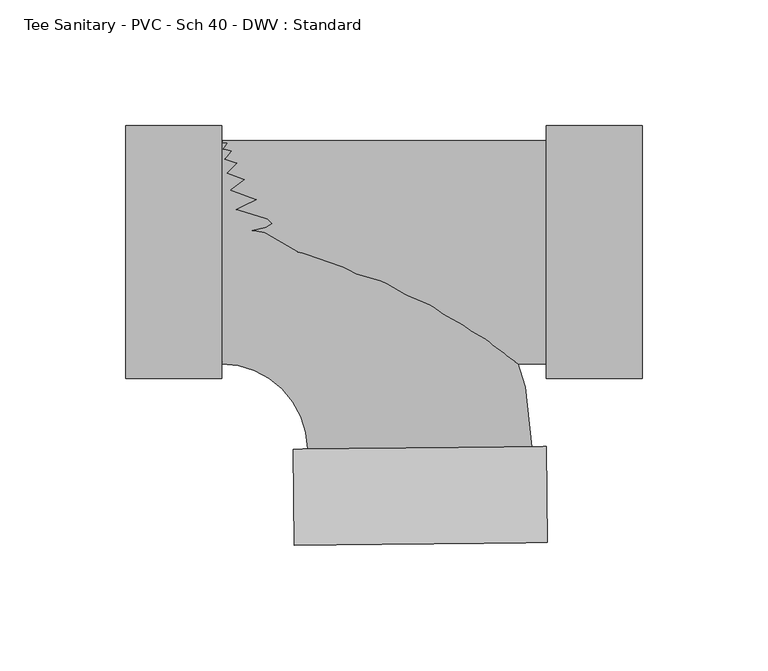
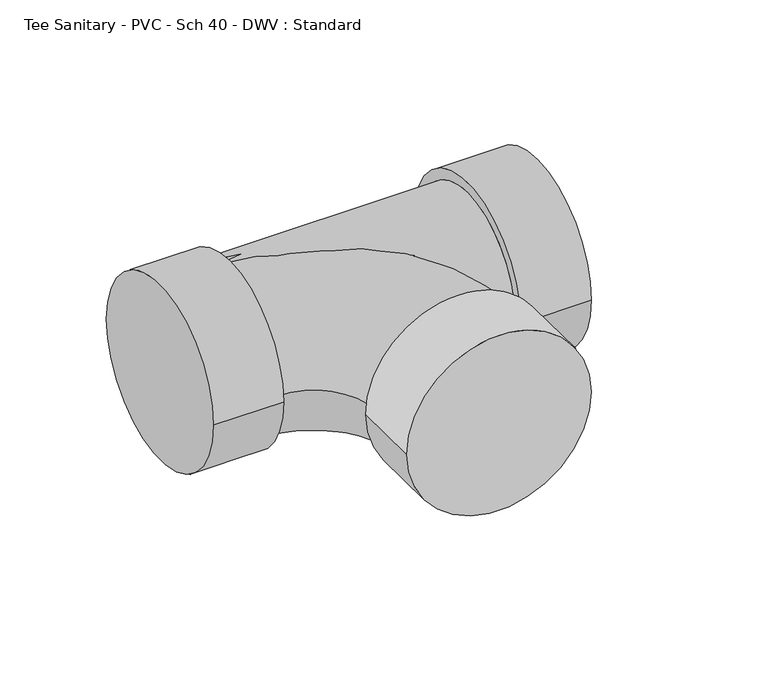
"""IFC4 building model written with IfcOpenShell, lengths in millimetres: pipe fitting geometry, Tee Sanitary - PVC - Sch 40 - DWV : Standard."""

from ifc_helpers import new_model, si_unit, point, frame, origin, place, context, project, spatial, circle_curve, ellipse_curve, trimmed, source, transform, mapped, element, save
from ifc_brep_helpers import plane_surface, cylinder_surface, revolved_surface, advanced_brep


def tee_sanitary_pvc_sch_40_dwv_standard_a3f514f4(model_context):
    return source(origin(), model_context, "Body", "AdvancedBrep", [
        advanced_brep(
        [(-77.8002, -44.45, 0.0), (-77.8002, 44.45, 0.0), (-43.6382819, -78.2583796, 0.0), (45.256908, -77.3336014, 0.0), (51.4695268, -115.371033, 0.0), (-49.0582337, -116.416825, 0.0), (51.0731933, -77.2730944, 0.0), (-49.4545672, -78.3188865, 0.0)],
        [
            (0, 1, circle_curve(frame((-77.8002, 0.0, 0.0), z_axis=(-1.0, 0.0, 0.0), x_axis=(0.0, 1.0, 0.0)), 44.45)),
            (1, 0, circle_curve(frame((-77.8002, 0.0, 0.0), z_axis=(-1.0, 0.0, 0.0), x_axis=(0.0, 1.0, 0.0)), 44.45)),
            (0, 2, circle_curve(frame((-77.8002, -78.6137666, 0.0), z_axis=(0.0, 0.0, -1.0), x_axis=(0.0, 1.0, 0.0)), 34.1637666)),
            (2, 3, circle_curve(frame((0.809313, -77.7959905, 0.0), z_axis=(-0.010402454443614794, 0.9999458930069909, 0.0), x_axis=(0.9999458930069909, 0.010402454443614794, 0.0)), 44.45)),
            (3, 1, circle_curve(frame((-77.8002, -78.6137666, 0.0), z_axis=(0.0, 0.0, 1.0), x_axis=(0.0, 1.0, 0.0)), 123.0637666)),
            (3, 2, circle_curve(frame((0.809313, -77.7959905, 0.0), z_axis=(-0.01040245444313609, 0.9999458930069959, 0.0), x_axis=(0.9999458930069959, 0.01040245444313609, 0.0)), 44.45)),
            (4, 5, circle_curve(frame((1.2056466, -115.893929, 0.0), z_axis=(0.010402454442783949, -0.9999458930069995, 0.0), x_axis=(-0.9999458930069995, -0.010402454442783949, 0.0)), 50.2666)),
            (5, 4, circle_curve(frame((1.2056466, -115.893929, 0.0), z_axis=(0.010402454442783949, -0.9999458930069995, 0.0), x_axis=(-0.9999458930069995, -0.010402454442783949, 0.0)), 50.2666)),
            (6, 7, circle_curve(frame((0.809313, -77.7959905, 0.0), z_axis=(-0.010402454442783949, 0.9999458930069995, 0.0), x_axis=(-0.9999458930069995, -0.010402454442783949, 0.0)), 50.2666)),
            (7, 6, circle_curve(frame((0.809313, -77.7959905, 0.0), z_axis=(-0.010402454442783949, 0.9999458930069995, 0.0), x_axis=(-0.9999458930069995, -0.010402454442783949, 0.0)), 50.2666)),
            (4, 6),
            (7, 5),
        ],
        [
            plane_surface(frame((-77.8002, 0.0, 0.0), z_axis=(-1.0, 0.0, 0.0), x_axis=(0.0, 0.0, 1.0))),
            revolved_surface(trimmed(ellipse_curve(frame((-77.8002, 0.0, 0.0), z_axis=(-1.0, 0.0, 0.0), x_axis=(0.0, 1.0, 0.0)), 44.45, 44.45), [point((-77.8002, -44.45, 0.0))], [point((-77.8002, 44.45, 0.0))], True, "CARTESIAN"), (-77.8002, -78.6137666, 0.0), (0.0, 0.0, -1.0)),
            revolved_surface(trimmed(ellipse_curve(frame((-77.8002, 0.0, 0.0), z_axis=(-1.0, 0.0, 0.0), x_axis=(0.0, 1.0, 0.0)), 44.45, 44.45), [point((-77.8002, 44.45, 0.0))], [point((-77.8002, -44.45, 0.0))], True, "CARTESIAN"), (-77.8002, -78.6137666, 0.0), (0.0, 0.0, -1.0)),
            plane_surface(frame((1.2056466, -115.893929, 0.0), z_axis=(0.010402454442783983, -0.9999458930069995, 0.0), x_axis=(0.0, 0.0, 1.0))),
            plane_surface(frame((0.809313, -77.7959905, 0.0), z_axis=(-0.010402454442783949, 0.9999458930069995, 0.0), x_axis=(0.0, 0.0, 1.0))),
            cylinder_surface(frame((1.2056466, -115.893929, 0.0), z_axis=(0.010402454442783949, -0.9999458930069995, 0.0), x_axis=(-0.9999458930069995, -0.010402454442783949, 0.0)), 50.2666),
        ],
        [
            (0, [[1, 2]]),
            (1, [[-1, 3, 4, 5]]),
            (2, [[-2, -5, 6, -3]]),
            (3, [[7, 8]]),
            (4, [[9, 10], [-4, -6]]),
            (5, [[-7, 11, -10, 12]]),
            (5, [[-8, -12, -9, -11]]),
        ],
    ),
        advanced_brep(
        [(-77.8002, -44.45, 0.0), (51.0731933, -44.45, 0.0), (51.0731933, 44.45, 0.0), (-77.8002, 44.45, 0.0), (51.0731933, -50.2666, 0.0), (51.0731933, 50.2666, 0.0), (89.1731933, -50.2666, 0.0), (89.1731933, 50.2666, 0.0), (-115.9002, -50.2666, 0.0), (-115.9002, 50.2666, 0.0), (-77.8002, -50.2666, 0.0), (-77.8002, 50.2666, 0.0)],
        [
            (0, 1),
            (1, 2, circle_curve(frame((51.0731933, 0.0, 0.0), z_axis=(-1.0, 0.0, 0.0), x_axis=(0.0, 1.0, 0.0)), 44.45)),
            (2, 3),
            (3, 0, circle_curve(frame((-77.8002, 0.0, 0.0), z_axis=(1.0, 0.0, 0.0), x_axis=(0.0, 1.0, 0.0)), 44.45)),
            (0, 3, circle_curve(frame((-77.8002, 0.0, 0.0), z_axis=(1.0, 0.0, 0.0), x_axis=(0.0, 1.0, 0.0)), 44.45)),
            (2, 1, circle_curve(frame((51.0731933, 0.0, 0.0), z_axis=(-1.0, 0.0, 0.0), x_axis=(0.0, 1.0, 0.0)), 44.45)),
            (4, 5, circle_curve(frame((51.0731933, 0.0, 0.0), z_axis=(-1.0, 0.0, 0.0), x_axis=(0.0, 1.0, 0.0)), 50.2666)),
            (5, 4, circle_curve(frame((51.0731933, 0.0, 0.0), z_axis=(-1.0, 0.0, 0.0), x_axis=(0.0, 1.0, 0.0)), 50.2666)),
            (6, 7, circle_curve(frame((89.1731933, 0.0, 0.0), z_axis=(1.0, 0.0, 0.0), x_axis=(0.0, 1.0, 0.0)), 50.2666)),
            (7, 6, circle_curve(frame((89.1731933, 0.0, 0.0), z_axis=(1.0, 0.0, 0.0), x_axis=(0.0, 1.0, 0.0)), 50.2666)),
            (4, 6),
            (7, 5),
            (8, 9, circle_curve(frame((-115.9002, 0.0, 0.0), z_axis=(-1.0, 0.0, 0.0), x_axis=(0.0, 1.0, 0.0)), 50.2666)),
            (9, 8, circle_curve(frame((-115.9002, 0.0, 0.0), z_axis=(-1.0, 0.0, 0.0), x_axis=(0.0, 1.0, 0.0)), 50.2666)),
            (10, 11, circle_curve(frame((-77.8002, 0.0, 0.0), z_axis=(1.0, 0.0, 0.0), x_axis=(0.0, 1.0, 0.0)), 50.2666)),
            (11, 10, circle_curve(frame((-77.8002, 0.0, 0.0), z_axis=(1.0, 0.0, 0.0), x_axis=(0.0, 1.0, 0.0)), 50.2666)),
            (8, 10),
            (11, 9),
        ],
        [
            cylinder_surface(frame((-77.8002, 0.0, 0.0), z_axis=(-1.0, 0.0, 0.0), x_axis=(0.0, 1.0, 0.0)), 44.45),
            plane_surface(frame((51.0731933, 0.0, 0.0), z_axis=(-1.0, 0.0, 0.0), x_axis=(0.0, 0.0, 1.0))),
            plane_surface(frame((89.1731933, 0.0, 0.0), z_axis=(1.0, 0.0, 0.0), x_axis=(0.0, 0.0, 1.0))),
            cylinder_surface(frame((51.0731933, 0.0, 0.0), z_axis=(-1.0, 0.0, 0.0), x_axis=(0.0, 1.0, 0.0)), 50.2666),
            plane_surface(frame((-115.9002, 0.0, 0.0), z_axis=(-1.0, 0.0, 0.0), x_axis=(0.0, 0.0, 1.0))),
            plane_surface(frame((-77.8002, 0.0, 0.0), z_axis=(1.0, 0.0, 0.0), x_axis=(0.0, 0.0, 1.0))),
            cylinder_surface(frame((-115.9002, 0.0, 0.0), z_axis=(-1.0, 0.0, 0.0), x_axis=(0.0, 1.0, 0.0)), 50.2666),
        ],
        [
            (0, [[1, 2, 3, 4]]),
            (0, [[-1, 5, -3, 6]]),
            (1, [[7, 8], [-2, -6]]),
            (2, [[9, 10]]),
            (3, [[-7, 11, -10, 12]]),
            (3, [[-8, -12, -9, -11]]),
            (4, [[13, 14]]),
            (5, [[15, 16], [-4, -5]]),
            (6, [[-13, 17, -16, 18]]),
            (6, [[-14, -18, -15, -17]]),
        ],
    ),
    ])


if __name__ == "__main__":
    model = new_model("IFC4")
    model_context = context("Model", 3, world=origin())
    ifc_project = project(units=[si_unit("LENGTHUNIT", "METRE", prefix="MILLI")], contexts=[model_context])
    site = spatial("IfcSite", under=ifc_project)
    building = spatial("IfcBuilding", under=site)
    placement = place(None, origin())
    tee_sanitary_pvc_sch_40_dwv_standard_shape = tee_sanitary_pvc_sch_40_dwv_standard_a3f514f4(model_context)
    element("IfcPipeFitting", 1, ObjectType="Tee Sanitary - PVC - Sch 40 - DWV : Standard", at=placement, inside=building, context=model_context, shape_type="MappedRepresentation", body=[
        mapped(tee_sanitary_pvc_sch_40_dwv_standard_shape, transform((0.0, 0.0, 0.0), x_axis=(1.0, 0.0, 0.0), y_axis=(0.0, 1.0, 0.0), z_axis=(0.0, 0.0, 1.0))),
    ])
    save(model, "model.ifc")
